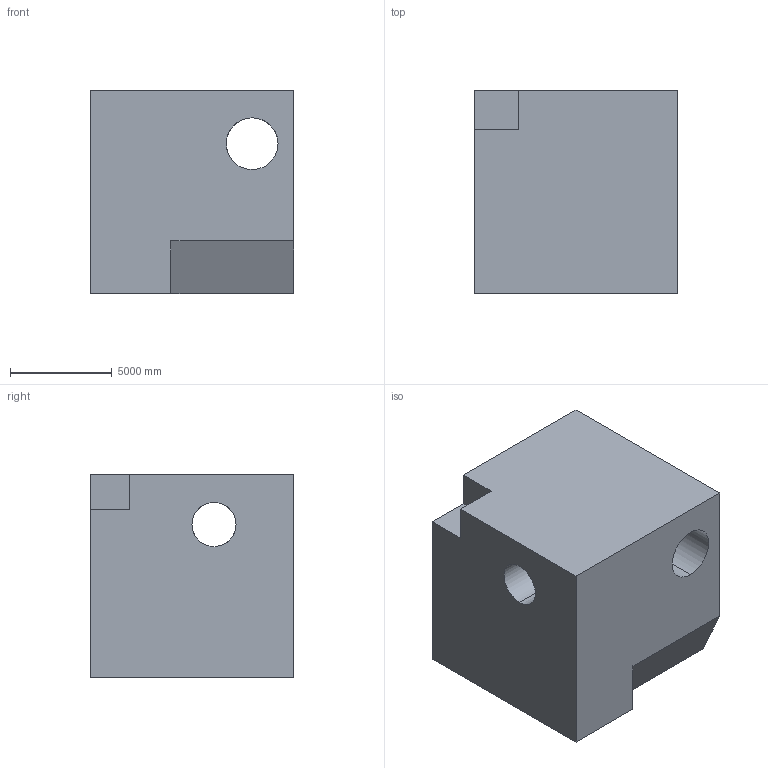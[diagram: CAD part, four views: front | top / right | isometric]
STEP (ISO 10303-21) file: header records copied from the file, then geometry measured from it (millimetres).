
FILE_DESCRIPTION (( 'STEP AP203' ), '1' );
FILE_NAME ('53.STEP', '2022-09-01T11:48:02', ( 'user' ), ( '' ), 'SwSTEP 2.0', 'SolidWorks 2021', '' );
FILE_SCHEMA (( 'CONFIG_CONTROL_DESIGN' ));
Length unit declared in the file: centimetre
Products named in the file (1): 53
Bounding box: 10000 x 10000 x 10000 mm (x, y, z)
Volume: 878955492549.7 mm3; surface area: 763099752.2 mm2
Topology: 1 solids, 1 shells, 25 faces, 66 edges, 44 vertices
Faces by surface type: plane 17, cylinder 8
Entity records: 1577 total; most frequent: CARTESIAN_POINT 854, ORIENTED_EDGE 132, DIRECTION 128, EDGE_CURVE 66, VECTOR 48, LINE 48, VERTEX_POINT 44, AXIS2_PLACEMENT_3D 40
